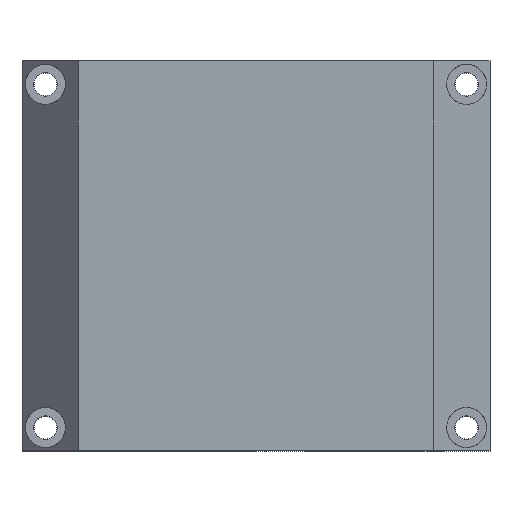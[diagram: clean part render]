
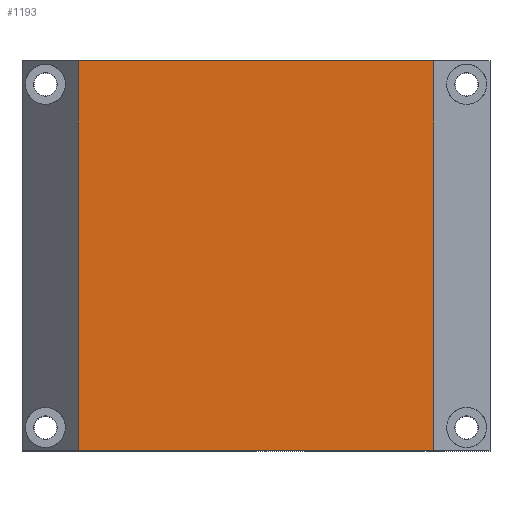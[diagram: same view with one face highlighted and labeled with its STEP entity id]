
A CAD part, top view. The second image highlights one B-rep face of the part: STEP entity #1193.
In plain terms, the highlighted planar face has unit normal (0, 0, 1).
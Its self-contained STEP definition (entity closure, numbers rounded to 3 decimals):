
#149 = AXIS2_PLACEMENT_3D ( 'NONE', #1535, #348, #777 ) ;
#174 = VERTEX_POINT ( 'NONE', #1771 ) ;
#183 = PLANE ( 'NONE',  #149 ) ;
#258 = CARTESIAN_POINT ( 'NONE',  ( -105., -87.5, 40. ) ) ;
#348 = DIRECTION ( 'NONE',  ( 0., 0., 1. ) ) ;
#354 = ORIENTED_EDGE ( 'NONE', *, *, #1044, .T. ) ;
#411 = ORIENTED_EDGE ( 'NONE', *, *, #694, .T. ) ;
#428 = CARTESIAN_POINT ( 'NONE',  ( -105., 87.5, 40. ) ) ;
#515 = CARTESIAN_POINT ( 'NONE',  ( 79.827, -87.5, 40. ) ) ;
#594 = DIRECTION ( 'NONE',  ( 0., -1., 0. ) ) ;
#637 = VERTEX_POINT ( 'NONE', #869 ) ;
#676 = VECTOR ( 'NONE', #1297, 1000. ) ;
#694 = EDGE_CURVE ( 'NONE', #1901, #637, #734, .T. ) ;
#734 = LINE ( 'NONE', #1339, #1582 ) ;
#736 = LINE ( 'NONE', #428, #1031 ) ;
#777 = DIRECTION ( 'NONE',  ( 1., 0., 0. ) ) ;
#833 = VECTOR ( 'NONE', #1696, 1000. ) ;
#869 = CARTESIAN_POINT ( 'NONE',  ( -79.827, -87.5, 40. ) ) ;
#919 = FACE_OUTER_BOUND ( 'NONE', #1205, .T. ) ;
#1022 = DIRECTION ( 'NONE',  ( -1., 0., 0. ) ) ;
#1031 = VECTOR ( 'NONE', #1022, 1000. ) ;
#1044 = EDGE_CURVE ( 'NONE', #637, #1478, #1147, .T. ) ;
#1077 = ORIENTED_EDGE ( 'NONE', *, *, #1235, .T. ) ;
#1147 = LINE ( 'NONE', #258, #676 ) ;
#1193 = ADVANCED_FACE ( 'NONE', ( #919 ), #183, .T. ) ;
#1205 = EDGE_LOOP ( 'NONE', ( #1851, #411, #354, #1077 ) ) ;
#1235 = EDGE_CURVE ( 'NONE', #1478, #174, #1390, .T. ) ;
#1297 = DIRECTION ( 'NONE',  ( 1., 0., 0. ) ) ;
#1316 = CARTESIAN_POINT ( 'NONE',  ( -79.827, 87.5, 40. ) ) ;
#1339 = CARTESIAN_POINT ( 'NONE',  ( -79.827, -87.5, 40. ) ) ;
#1390 = LINE ( 'NONE', #1512, #833 ) ;
#1478 = VERTEX_POINT ( 'NONE', #515 ) ;
#1512 = CARTESIAN_POINT ( 'NONE',  ( 79.827, 87.5, 40. ) ) ;
#1535 = CARTESIAN_POINT ( 'NONE',  ( 0., 0., 40. ) ) ;
#1582 = VECTOR ( 'NONE', #594, 1000. ) ;
#1696 = DIRECTION ( 'NONE',  ( 0., 1., 0. ) ) ;
#1771 = CARTESIAN_POINT ( 'NONE',  ( 79.827, 87.5, 40. ) ) ;
#1851 = ORIENTED_EDGE ( 'NONE', *, *, #1912, .T. ) ;
#1901 = VERTEX_POINT ( 'NONE', #1316 ) ;
#1912 = EDGE_CURVE ( 'NONE', #174, #1901, #736, .T. ) ;
